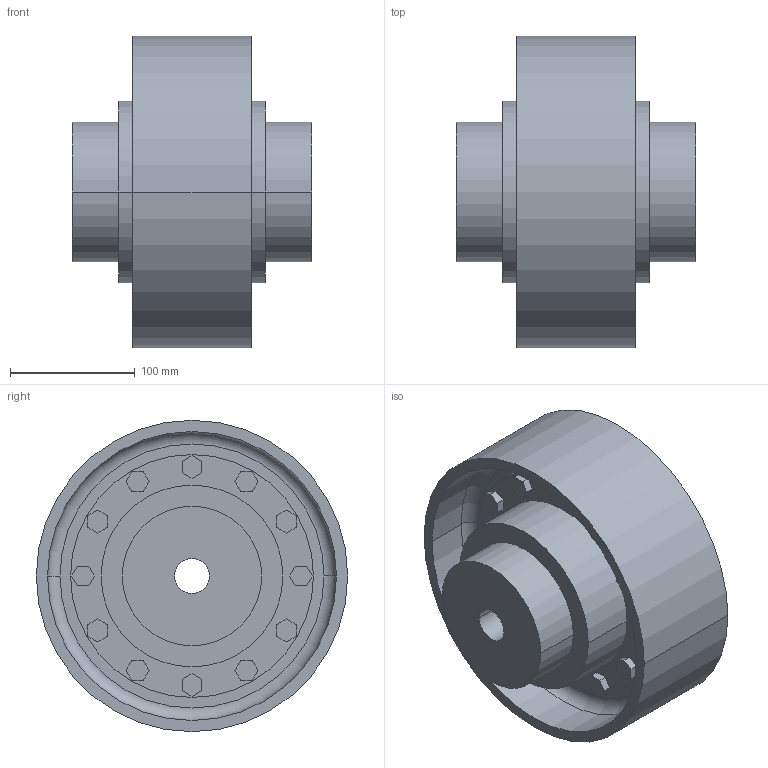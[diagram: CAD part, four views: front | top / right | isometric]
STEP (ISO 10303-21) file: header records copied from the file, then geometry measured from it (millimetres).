
FILE_DESCRIPTION((''),'2;1');
FILE_NAME('A19109100-0_ASM','2018-11-12T',('AB_Roschiwal'),('RENK AG'),'PRO/ENGINEER BY PARAMETRIC TECHNOLOGY CORPORATION, 2015440','PRO/ENGINEER BY PARAMETRIC TECHNOLOGY CORPORATION, 2015440','');
FILE_SCHEMA(('CONFIG_CONTROL_DESIGN'));
Length unit declared in the file: millimetre
Products named in the file (4): LBKD70_GEHAEUSE; LBKD70_NABE; LBKD70_BREMSSCHEIBE; A19109100-0_ASM
Assembly tree (4 placements, depth 2):
  A19109100-0_ASM
    LBKD70_GEHAEUSE
    LBKD70_NABE  x2
    LBKD70_BREMSSCHEIBE
Bounding box: 192 x 250 x 250 mm (x, y, z)
Volume: 3580608.1 mm3; surface area: 529266.2 mm2
Topology: 4 solids, 4 shells, 292 faces, 704 edges, 468 vertices
Faces by surface type: plane 200, cylinder 88, torus 4
Entity records: 8356 total; most frequent: DIRECTION 1424, CARTESIAN_POINT 1420, ORIENTED_EDGE 1360, EDGE_CURVE 680, VECTOR 512, LINE 512, AXIS2_PLACEMENT_3D 456, VERTEX_POINT 452
